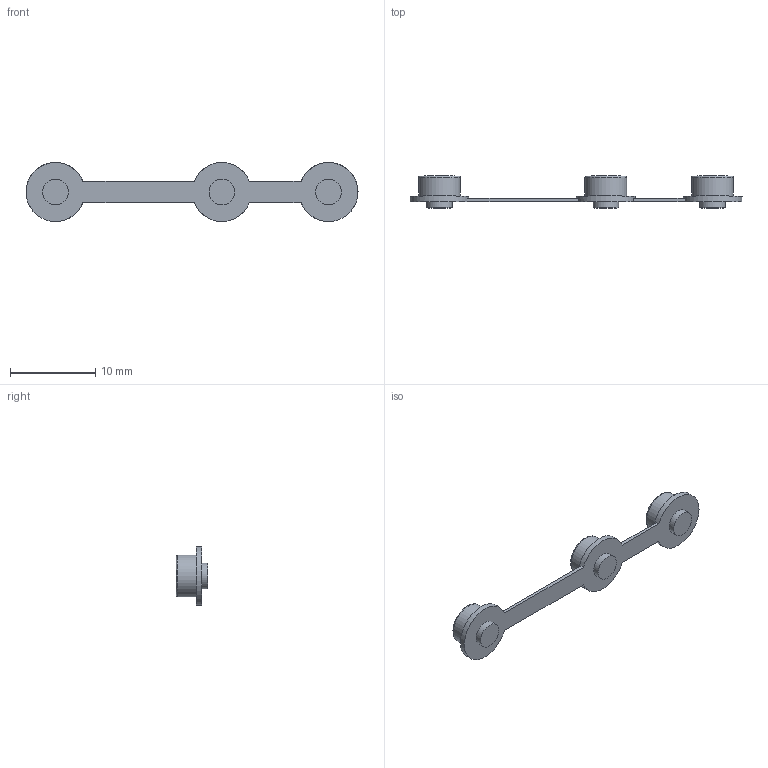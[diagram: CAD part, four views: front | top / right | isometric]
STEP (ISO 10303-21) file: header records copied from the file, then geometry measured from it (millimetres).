
FILE_DESCRIPTION(/* description */ (''),/* implementation_level */ '2;1');
FILE_NAME(/* name */ 'Power-Volume Buttons.step',/* time_stamp */ '2022-11-03T21:41:15+09:00',/* author */ (''),/* organization */ (''),/* preprocessor_version */ 'ST-DEVELOPER v19.2',/* originating_system */ 'Autodesk Translation Framework v11.17.0.187',/* authorisation */ '');
FILE_SCHEMA (('AUTOMOTIVE_DESIGN { 1 0 10303 214 3 1 1 }'));
Length unit declared in the file: millimetre
Products named in the file (1): Power-Volume Buttons
Bounding box: 38.9 x 3.75 x 6.9 mm (x, y, z)
Volume: 231.9 mm3; surface area: 507.1 mm2
Topology: 1 solids, 1 shells, 56 faces, 132 edges, 88 vertices
Faces by surface type: plane 35, cylinder 11, sphere 7, torus 3
Full cylindrical faces by diameter (mm): 3 x3, 4.9 x3, 6.9 x3
Entity records: 1699 total; most frequent: DIRECTION 329, CARTESIAN_POINT 277, ORIENTED_EDGE 264, AXIS2_PLACEMENT_3D 140, EDGE_CURVE 132, VERTEX_POINT 88, CIRCLE 83, EDGE_LOOP 66
